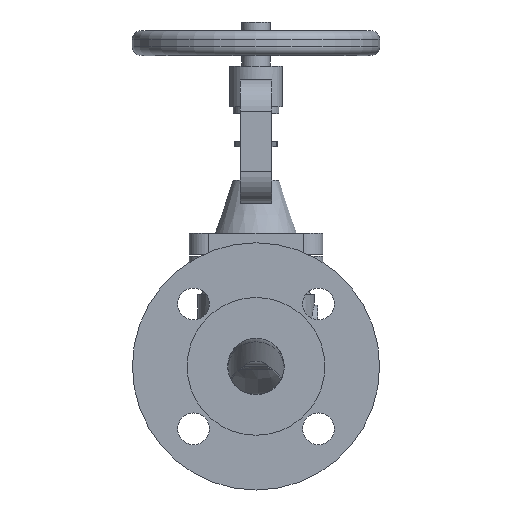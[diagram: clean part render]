
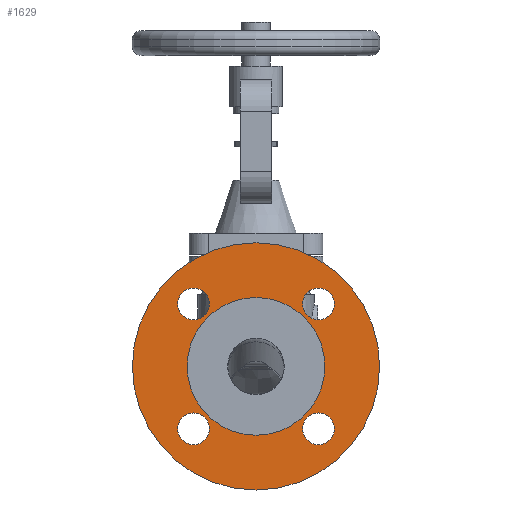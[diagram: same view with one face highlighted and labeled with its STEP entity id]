
A CAD part, front view. The second image highlights one B-rep face of the part: STEP entity #1629.
In plain terms, the highlighted planar face has unit normal (0, -1, 0).
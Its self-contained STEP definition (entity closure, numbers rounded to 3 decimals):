
#1629=ADVANCED_FACE('',(#13842,#13844,#13846,#13848,#13850,#13852),#13854,.T.);
#13842=FACE_BOUND('',#13843,.T.);
#13843=EDGE_LOOP('',(#30696));
#13844=FACE_BOUND('',#13845,.T.);
#13845=EDGE_LOOP('',(#30697));
#13846=FACE_BOUND('',#13847,.T.);
#13847=EDGE_LOOP('',(#30698));
#13848=FACE_BOUND('',#13849,.T.);
#13849=EDGE_LOOP('',(#30699));
#13850=FACE_BOUND('',#13851,.T.);
#13851=EDGE_LOOP('',(#30700));
#13852=FACE_BOUND('',#13853,.T.);
#13853=EDGE_LOOP('',(#30701));
#13854=PLANE('',#13855);
#13855=AXIS2_PLACEMENT_3D('',#13856,#13857,#13858);
#13856=CARTESIAN_POINT('',(0.,-87.,0.));
#13857=DIRECTION('',(0.,-1.,0.));
#13858=DIRECTION('',(0.,0.,1.));
#30696=ORIENTED_EDGE('',*,*,#38239,.F.);
#30697=ORIENTED_EDGE('',*,*,#38243,.T.);
#30698=ORIENTED_EDGE('',*,*,#38242,.T.);
#30699=ORIENTED_EDGE('',*,*,#38241,.T.);
#30700=ORIENTED_EDGE('',*,*,#38249,.T.);
#30701=ORIENTED_EDGE('',*,*,#38240,.T.);
#38239=EDGE_CURVE('',#39085,#39085,#39086,.T.);
#38240=EDGE_CURVE('',#39087,#39087,#39088,.F.);
#38241=EDGE_CURVE('',#39089,#39089,#39090,.F.);
#38242=EDGE_CURVE('',#39091,#39091,#39092,.F.);
#38243=EDGE_CURVE('',#39093,#39093,#39094,.F.);
#38249=EDGE_CURVE('',#39105,#39105,#39106,.T.);
#39085=VERTEX_POINT('',#43815);
#39086=CIRCLE('',#43816,70.);
#39087=VERTEX_POINT('',#43820);
#39088=CIRCLE('',#43821,9.);
#39089=VERTEX_POINT('',#43825);
#39090=CIRCLE('',#43826,9.);
#39091=VERTEX_POINT('',#43830);
#39092=CIRCLE('',#43831,9.);
#39093=VERTEX_POINT('',#43835);
#39094=CIRCLE('',#43836,9.);
#39105=VERTEX_POINT('',#43865);
#39106=CIRCLE('',#43866,39.);
#43815=CARTESIAN_POINT('',(0.,-87.,70.));
#43816=AXIS2_PLACEMENT_3D('',#43817,#43818,#43819);
#43817=CARTESIAN_POINT('',(0.,-87.,0.));
#43818=DIRECTION('',(0.,1.,0.));
#43819=DIRECTION('',(0.,0.,1.));
#43820=CARTESIAN_POINT('',(-26.355,-87.,35.355));
#43821=AXIS2_PLACEMENT_3D('',#43822,#43823,#43824);
#43822=CARTESIAN_POINT('',(-35.355,-87.,35.355));
#43823=DIRECTION('',(0.,-1.,0.));
#43824=DIRECTION('',(1.,0.,0.));
#43825=CARTESIAN_POINT('',(-35.355,-87.,-26.355));
#43826=AXIS2_PLACEMENT_3D('',#43827,#43828,#43829);
#43827=CARTESIAN_POINT('',(-35.355,-87.,-35.355));
#43828=DIRECTION('',(0.,-1.,0.));
#43829=DIRECTION('',(0.,0.,1.));
#43830=CARTESIAN_POINT('',(26.355,-87.,-35.355));
#43831=AXIS2_PLACEMENT_3D('',#43832,#43833,#43834);
#43832=CARTESIAN_POINT('',(35.355,-87.,-35.355));
#43833=DIRECTION('',(0.,-1.,0.));
#43834=DIRECTION('',(-1.,0.,0.));
#43835=CARTESIAN_POINT('',(35.355,-87.,26.355));
#43836=AXIS2_PLACEMENT_3D('',#43837,#43838,#43839);
#43837=CARTESIAN_POINT('',(35.355,-87.,35.355));
#43838=DIRECTION('',(0.,-1.,0.));
#43839=DIRECTION('',(0.,0.,-1.));
#43865=CARTESIAN_POINT('',(0.,-87.,39.));
#43866=AXIS2_PLACEMENT_3D('',#43867,#43868,#43869);
#43867=CARTESIAN_POINT('',(0.,-87.,0.));
#43868=DIRECTION('',(0.,1.,0.));
#43869=DIRECTION('',(0.,0.,1.));
